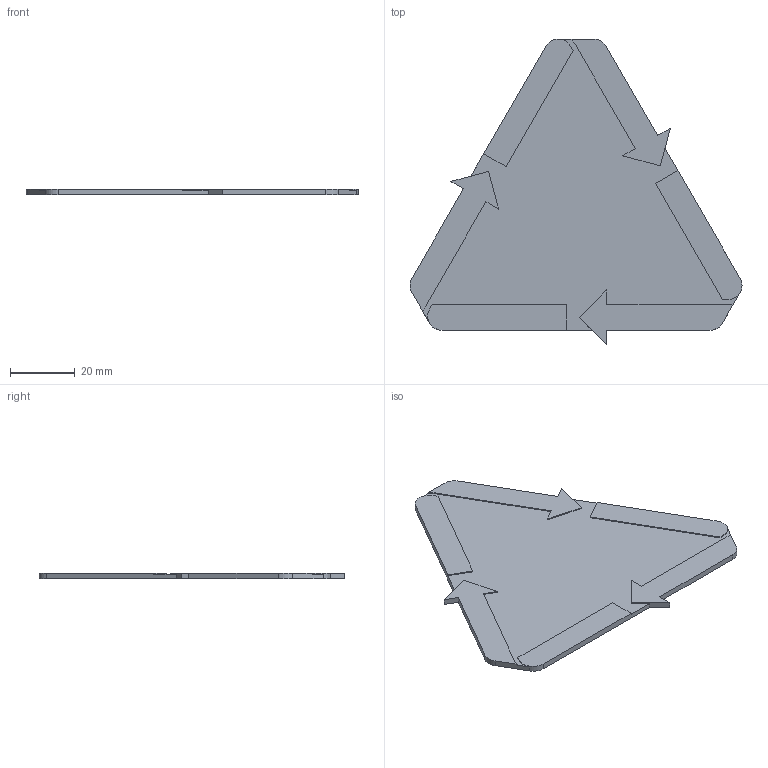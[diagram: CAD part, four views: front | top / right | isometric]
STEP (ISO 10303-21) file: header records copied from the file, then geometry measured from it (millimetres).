
FILE_DESCRIPTION (( 'STEP AP203' ), '1' );
FILE_NAME ('BLANK.STEP', '2022-06-06T21:17:48', ( '' ), ( '' ), 'SwSTEP 2.0', 'SolidWorks 2021', '' );
FILE_SCHEMA (( 'CONFIG_CONTROL_DESIGN' ));
Length unit declared in the file: millimetre
Products named in the file (1): BLANK
Bounding box: 102.55 x 94.5 x 1.8 mm (x, y, z)
Volume: 9517 mm3; surface area: 12532.4 mm2
Topology: 1 solids, 1 shells, 51 faces, 147 edges, 98 vertices
Faces by surface type: plane 41, cylinder 10
Entity records: 1741 total; most frequent: CARTESIAN_POINT 297, ORIENTED_EDGE 294, DIRECTION 274, EDGE_CURVE 147, VECTOR 124, LINE 124, VERTEX_POINT 98, AXIS2_PLACEMENT_3D 75
